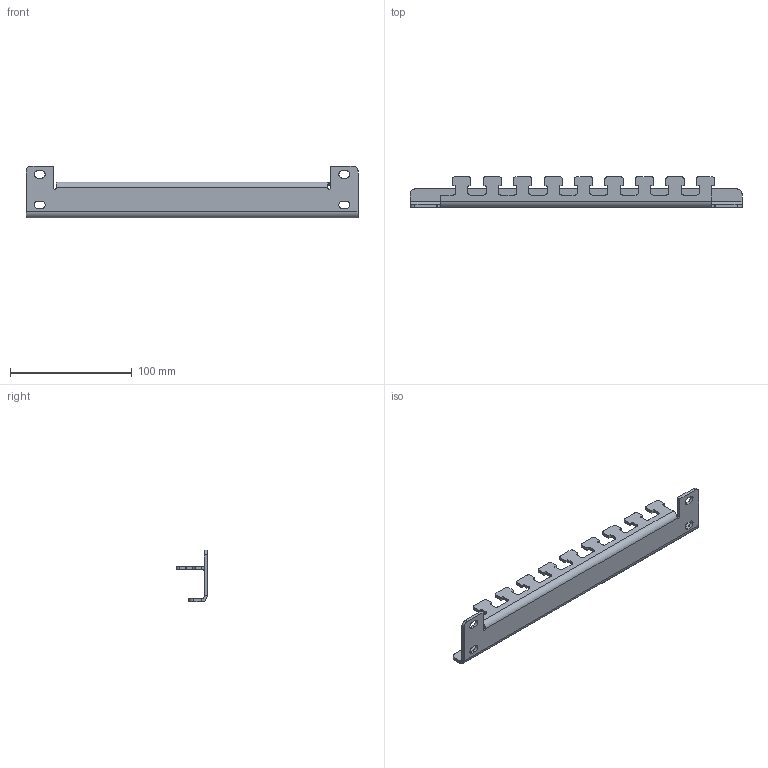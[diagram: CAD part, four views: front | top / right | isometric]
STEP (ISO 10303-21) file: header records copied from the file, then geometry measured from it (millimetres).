
FILE_DESCRIPTION (( 'STEP AP203' ), '1' );
FILE_NAME ('MG 40 Ðåéêà ãîðèçîíòàëüíàÿ íèæíÿÿ.STEP', '2012-11-26T12:18:04', ( 'system' ), ( '' ), 'SwSTEP 2.0', 'SolidWorks 2012', '' );
FILE_SCHEMA (( 'CONFIG_CONTROL_DESIGN' ));
Length unit declared in the file: millimetre
Products named in the file (1): MG 40 Ðåéêà ãîðèçîíòàëüíàÿ íèæíÿÿ
Bounding box: 272.5 x 25 x 42.53 mm (x, y, z)
Volume: 35919.4 mm3; surface area: 31552.4 mm2
Topology: 1 solids, 1 shells, 193 faces, 557 edges, 366 vertices
Faces by surface type: plane 100, cylinder 91, bspline 2
Entity records: 6472 total; most frequent: CARTESIAN_POINT 1153, DIRECTION 1115, ORIENTED_EDGE 1114, EDGE_CURVE 557, AXIS2_PLACEMENT_3D 374, VECTOR 367, LINE 367, VERTEX_POINT 366
